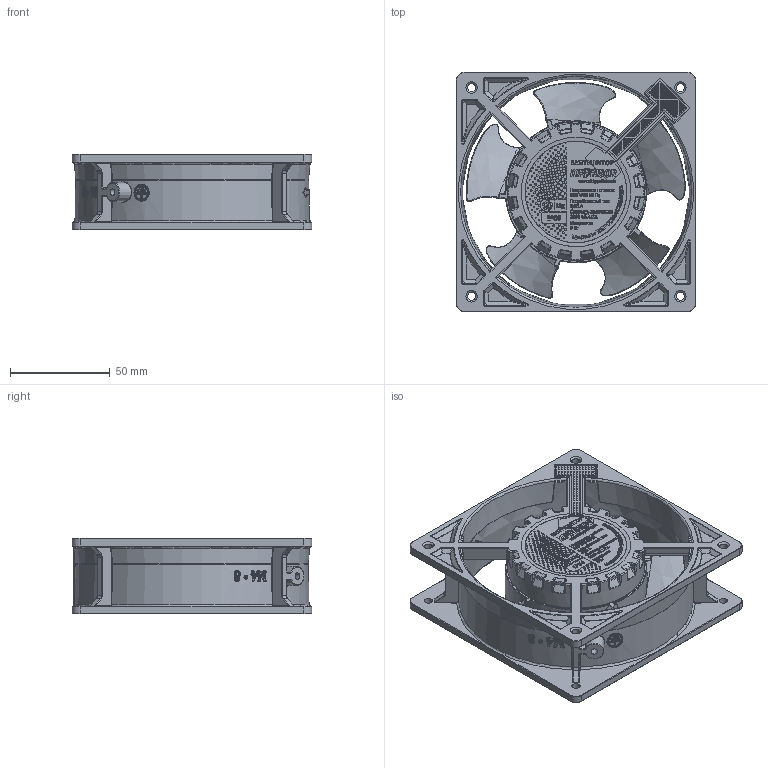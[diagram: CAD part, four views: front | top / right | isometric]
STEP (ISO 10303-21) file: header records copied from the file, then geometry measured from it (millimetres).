
FILE_DESCRIPTION(/* description */ (''),/* implementation_level */ '2;1');
FILE_NAME(/* name */ 'D:\Котлубовский\Вентиляторы\VENT-12038.220VAC.5MSLB\На отправку\VENT-12038.220VAC.5MSLB Вентилятор в сборе.stp',/* time_stamp */ '2021-06-22T19:46:40+07:00',/* author */ ('YURY_'),/* organization */ (''),/* preprocessor_version */ 'ST-DEVELOPER v17.2',/* originating_system */ 'Autodesk Inventor 2019',/* authorisation */ '');
FILE_SCHEMA (('AUTOMOTIVE_DESIGN { 1 0 10303 214 3 1 1 }'));
Length unit declared in the file: millimetre
Products named in the file (7): VENT-12038.220VAC.5MSLB Вентилятор 
в сборе; Корпус VENT-12038.220VAC.5M
SLB; Крышка VENT-12038.220VAC.5M
SLB; Короб штекера 
VENT-12038.220VAC.5MSLB; Планка штекера; Крыльчатка VENT
-12038.220VAC.5MSLB; Табличка VENT-12038.2
20VAC.5MSLB
Assembly tree (7 placements, depth 2):
  VENT-12038.220VAC.5MSLB Вентилятор 
в сборе
    Корпус VENT-12038.220VAC.5M
SLB
    Крышка VENT-12038.220VAC.5M
SLB
    Короб штекера 
VENT-12038.220VAC.5MSLB
    Планка штекера  x2
    Крыльчатка VENT
-12038.220VAC.5MSLB
    Табличка VENT-12038.2
20VAC.5MSLB
Bounding box: 120.2 x 120.2 x 38.01 mm (x, y, z)
Volume: 108184.9 mm3; surface area: 102732.9 mm2
Topology: 7 solids, 7 shells, 6856 faces, 16514 edges, 10052 vertices
Faces by surface type: bspline 2879, plane 2634, cylinder 704, torus 334, sphere 202, cone 103
Full cylindrical faces by diameter (mm): 1 x2, 2.884 x1, 3.2 x1, 4 x2, 4.1 x8, 7 x1, 8.2 x1, 51 x1, 64.7 x1, 66.7 x1, 68.4 x1, 68.7 x1
Entity records: 244007 total; most frequent: CARTESIAN_POINT 102785, ORIENTED_EDGE 32762, DIRECTION 21953, EDGE_CURVE 16381, VERTEX_POINT 10007, LINE 7691, VECTOR 7691, EDGE_LOOP 7312
